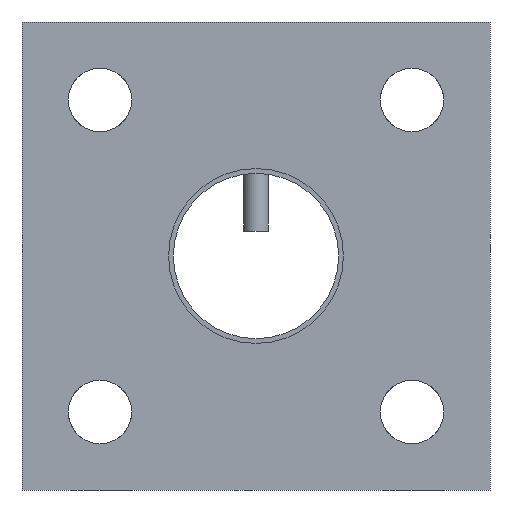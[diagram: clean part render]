
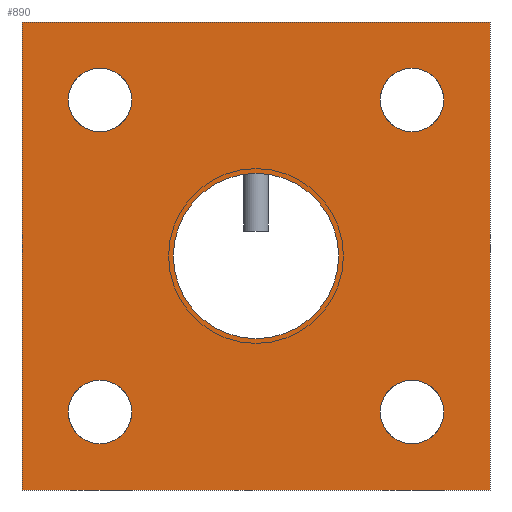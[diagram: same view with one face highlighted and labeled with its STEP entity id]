
A CAD part, front view. The second image highlights one B-rep face of the part: STEP entity #890.
In plain terms, the highlighted planar face has unit normal (0, -1, 0).
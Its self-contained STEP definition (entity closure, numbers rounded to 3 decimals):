
#1=CARTESIAN_POINT('',(0.,0.,0.));
#2=DIRECTION('',(0.,-1.,0.));
#3=DIRECTION('',(1.,0.,0.));
#4=AXIS2_PLACEMENT_3D('',#1,#2,#3);
#6=CARTESIAN_POINT('',(0.,0.,0.));
#7=DIRECTION('',(0.,-1.,0.));
#8=DIRECTION('',(-1.,0.,0.));
#9=AXIS2_PLACEMENT_3D('',#6,#7,#8);
#11=DIRECTION('',(0.,0.,1.));
#12=VECTOR('',#11,75.);
#13=CARTESIAN_POINT('',(-37.5,0.,-37.5));
#14=LINE('',#13,#12);
#15=DIRECTION('',(1.,0.,0.));
#16=VECTOR('',#15,75.);
#17=CARTESIAN_POINT('',(-37.5,0.,37.5));
#18=LINE('',#17,#16);
#19=DIRECTION('',(0.,0.,-1.));
#20=VECTOR('',#19,75.);
#21=CARTESIAN_POINT('',(37.5,0.,37.5));
#22=LINE('',#21,#20);
#23=DIRECTION('',(-1.,0.,0.));
#24=VECTOR('',#23,75.);
#25=CARTESIAN_POINT('',(37.5,0.,-37.5));
#26=LINE('',#25,#24);
#27=CARTESIAN_POINT('',(25.,0.,-25.));
#28=DIRECTION('',(0.,-1.,0.));
#29=DIRECTION('',(1.,0.,0.));
#30=AXIS2_PLACEMENT_3D('',#27,#28,#29);
#32=CARTESIAN_POINT('',(25.,0.,-25.));
#33=DIRECTION('',(0.,-1.,0.));
#34=DIRECTION('',(-1.,0.,0.));
#35=AXIS2_PLACEMENT_3D('',#32,#33,#34);
#37=CARTESIAN_POINT('',(-25.,0.,-25.));
#38=DIRECTION('',(0.,-1.,0.));
#39=DIRECTION('',(0.,0.,-1.));
#40=AXIS2_PLACEMENT_3D('',#37,#38,#39);
#42=CARTESIAN_POINT('',(-25.,0.,-25.));
#43=DIRECTION('',(0.,-1.,0.));
#44=DIRECTION('',(0.,0.,1.));
#45=AXIS2_PLACEMENT_3D('',#42,#43,#44);
#47=CARTESIAN_POINT('',(-25.,0.,25.));
#48=DIRECTION('',(0.,-1.,0.));
#49=DIRECTION('',(-1.,0.,0.));
#50=AXIS2_PLACEMENT_3D('',#47,#48,#49);
#52=CARTESIAN_POINT('',(-25.,0.,25.));
#53=DIRECTION('',(0.,-1.,0.));
#54=DIRECTION('',(1.,0.,0.));
#55=AXIS2_PLACEMENT_3D('',#52,#53,#54);
#57=CARTESIAN_POINT('',(25.,0.,25.));
#58=DIRECTION('',(0.,-1.,0.));
#59=DIRECTION('',(0.,0.,1.));
#60=AXIS2_PLACEMENT_3D('',#57,#58,#59);
#62=CARTESIAN_POINT('',(25.,0.,25.));
#63=DIRECTION('',(0.,-1.,0.));
#64=DIRECTION('',(0.,0.,-1.));
#65=AXIS2_PLACEMENT_3D('',#62,#63,#64);
#737=CARTESIAN_POINT('',(13.25,0.,0.));
#738=CARTESIAN_POINT('',(-13.25,0.,0.));
#739=VERTEX_POINT('',#737);
#740=VERTEX_POINT('',#738);
#741=CARTESIAN_POINT('',(-37.5,0.,-37.5));
#742=CARTESIAN_POINT('',(-37.5,0.,37.5));
#743=VERTEX_POINT('',#741);
#744=VERTEX_POINT('',#742);
#745=CARTESIAN_POINT('',(37.5,0.,37.5));
#746=VERTEX_POINT('',#745);
#747=CARTESIAN_POINT('',(37.5,0.,-37.5));
#748=VERTEX_POINT('',#747);
#761=CARTESIAN_POINT('',(30.1,0.,-25.));
#762=CARTESIAN_POINT('',(19.9,0.,-25.));
#763=VERTEX_POINT('',#761);
#764=VERTEX_POINT('',#762);
#769=CARTESIAN_POINT('',(-25.,0.,-30.1));
#770=CARTESIAN_POINT('',(-25.,0.,-19.9));
#771=VERTEX_POINT('',#769);
#772=VERTEX_POINT('',#770);
#777=CARTESIAN_POINT('',(-30.1,0.,25.));
#778=CARTESIAN_POINT('',(-19.9,0.,25.));
#779=VERTEX_POINT('',#777);
#780=VERTEX_POINT('',#778);
#785=CARTESIAN_POINT('',(25.,0.,30.1));
#786=CARTESIAN_POINT('',(25.,0.,19.9));
#787=VERTEX_POINT('',#785);
#788=VERTEX_POINT('',#786);
#845=CARTESIAN_POINT('',(0.,0.,0.));
#846=DIRECTION('',(0.,1.,0.));
#847=DIRECTION('',(1.,0.,0.));
#848=AXIS2_PLACEMENT_3D('',#845,#846,#847);
#849=PLANE('',#848);
#851=ORIENTED_EDGE('',*,*,#850,.T.);
#853=ORIENTED_EDGE('',*,*,#852,.T.);
#855=ORIENTED_EDGE('',*,*,#854,.T.);
#857=ORIENTED_EDGE('',*,*,#856,.T.);
#858=EDGE_LOOP('',(#851,#853,#855,#857));
#859=FACE_OUTER_BOUND('',#858,.F.);
#861=ORIENTED_EDGE('',*,*,#860,.T.);
#863=ORIENTED_EDGE('',*,*,#862,.T.);
#864=EDGE_LOOP('',(#861,#863));
#865=FACE_BOUND('',#864,.F.);
#867=ORIENTED_EDGE('',*,*,#866,.T.);
#869=ORIENTED_EDGE('',*,*,#868,.T.);
#870=EDGE_LOOP('',(#867,#869));
#871=FACE_BOUND('',#870,.F.);
#873=ORIENTED_EDGE('',*,*,#872,.T.);
#875=ORIENTED_EDGE('',*,*,#874,.T.);
#876=EDGE_LOOP('',(#873,#875));
#877=FACE_BOUND('',#876,.F.);
#879=ORIENTED_EDGE('',*,*,#878,.T.);
#881=ORIENTED_EDGE('',*,*,#880,.T.);
#882=EDGE_LOOP('',(#879,#881));
#883=FACE_BOUND('',#882,.F.);
#885=ORIENTED_EDGE('',*,*,#884,.T.);
#887=ORIENTED_EDGE('',*,*,#886,.T.);
#888=EDGE_LOOP('',(#885,#887));
#889=FACE_BOUND('',#888,.F.);
#890=ADVANCED_FACE('',(#859,#865,#871,#877,#883,#889),#849,.F.);
#5=CIRCLE('',#4,13.25);
#10=CIRCLE('',#9,13.25);
#31=CIRCLE('',#30,5.1);
#36=CIRCLE('',#35,5.1);
#41=CIRCLE('',#40,5.1);
#46=CIRCLE('',#45,5.1);
#51=CIRCLE('',#50,5.1);
#56=CIRCLE('',#55,5.1);
#61=CIRCLE('',#60,5.1);
#66=CIRCLE('',#65,5.1);
#850=EDGE_CURVE('',#743,#744,#14,.T.);
#852=EDGE_CURVE('',#744,#746,#18,.T.);
#854=EDGE_CURVE('',#746,#748,#22,.T.);
#856=EDGE_CURVE('',#748,#743,#26,.T.);
#860=EDGE_CURVE('',#739,#740,#5,.T.);
#862=EDGE_CURVE('',#740,#739,#10,.T.);
#866=EDGE_CURVE('',#763,#764,#31,.T.);
#868=EDGE_CURVE('',#764,#763,#36,.T.);
#872=EDGE_CURVE('',#771,#772,#41,.T.);
#874=EDGE_CURVE('',#772,#771,#46,.T.);
#878=EDGE_CURVE('',#779,#780,#51,.T.);
#880=EDGE_CURVE('',#780,#779,#56,.T.);
#884=EDGE_CURVE('',#787,#788,#61,.T.);
#886=EDGE_CURVE('',#788,#787,#66,.T.);
